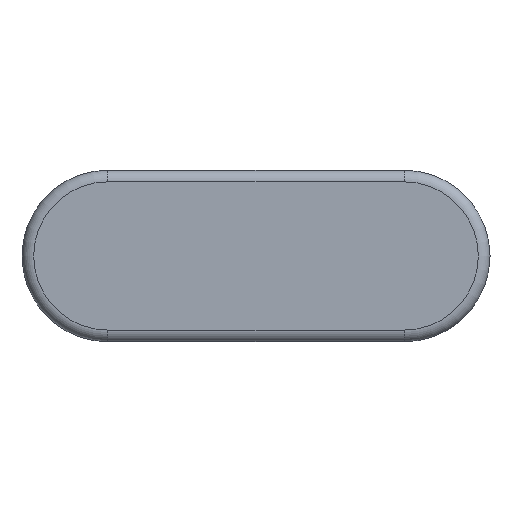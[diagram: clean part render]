
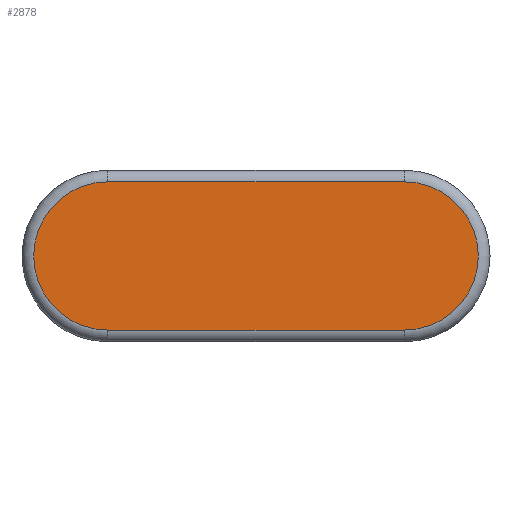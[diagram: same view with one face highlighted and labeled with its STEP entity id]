
A CAD part, top view. The second image highlights one B-rep face of the part: STEP entity #2878.
In plain terms, the highlighted planar face has unit normal (0, 0, 1).
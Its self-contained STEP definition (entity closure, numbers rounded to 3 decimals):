
#1890=CARTESIAN_POINT('',(8.4,-11.3,11.));
#1891=VERTEX_POINT('',#1890);
#1892=CARTESIAN_POINT('',(8.4,-7.5,11.));
#1893=VERTEX_POINT('',#1892);
#1894=CARTESIAN_POINT('',(8.4,-9.4,11.));
#1895=DIRECTION('',(0.0,0.0,-1.0));
#1896=DIRECTION('',(-1.0,0.0,0.0));
#1897=AXIS2_PLACEMENT_3D('',#1894,#1895,#1896);
#1898=CIRCLE('',#1897,1.9);
#1899=EDGE_CURVE('',#1891,#1893,#1898,.T.);
#1924=CARTESIAN_POINT('',(16.,-11.3,11.));
#1925=VERTEX_POINT('',#1924);
#1935=CARTESIAN_POINT('',(16.,-11.3,11.));
#1936=DIRECTION('',(-1.0,0.0,0.0));
#1937=VECTOR('',#1936,7.6);
#1938=LINE('',#1935,#1937);
#1939=EDGE_CURVE('',#1925,#1891,#1938,.T.);
#1957=CARTESIAN_POINT('',(16.,-7.5,11.));
#1958=VERTEX_POINT('',#1957);
#1959=CARTESIAN_POINT('',(8.4,-7.5,11.));
#1960=DIRECTION('',(1.0,0.0,0.0));
#1961=VECTOR('',#1960,7.6);
#1962=LINE('',#1959,#1961);
#1963=EDGE_CURVE('',#1893,#1958,#1962,.T.);
#1996=CARTESIAN_POINT('',(16.,-9.4,11.));
#1997=DIRECTION('',(0.0,0.0,-1.0));
#1998=DIRECTION('',(1.0,0.0,0.0));
#1999=AXIS2_PLACEMENT_3D('',#1996,#1997,#1998);
#2000=CIRCLE('',#1999,1.9);
#2001=EDGE_CURVE('',#1958,#1925,#2000,.T.);
#2867=CARTESIAN_POINT('',(12.2,-9.4,11.));
#2868=DIRECTION('',(0.0,0.0,1.0));
#2869=DIRECTION('',(1.0,0.0,0.0));
#2870=AXIS2_PLACEMENT_3D('',#2867,#2868,#2869);
#2871=PLANE('',#2870);
#2872=ORIENTED_EDGE('',*,*,#2001,.F.);
#2873=ORIENTED_EDGE('',*,*,#1963,.F.);
#2874=ORIENTED_EDGE('',*,*,#1899,.F.);
#2875=ORIENTED_EDGE('',*,*,#1939,.F.);
#2876=EDGE_LOOP('',(#2872,#2873,#2874,#2875));
#2877=FACE_OUTER_BOUND('',#2876,.T.);
#2878=ADVANCED_FACE('',(#2877),#2871,.T.);
